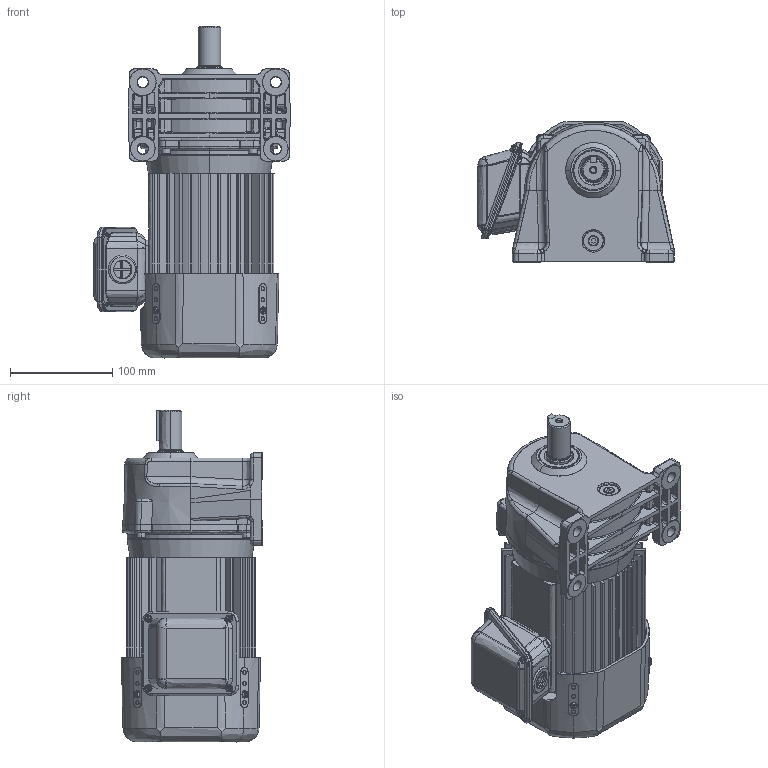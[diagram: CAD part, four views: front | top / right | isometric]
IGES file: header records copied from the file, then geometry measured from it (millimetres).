
Start section: SolidWorks IGES file using analytic representation for surfaces
Global section: file name: \\100.100.100.8\1_共有作業フォルダ\1-5_３Ｄデータ\solidworks\personal-folder\H.Nagayama\SGP1外形\P1(3D)\igs\TML2-04-(5~25).IGS; native system: SolidWorks 2018; preprocessor: SolidWorks 2018; author: sigma-giken; date: 200612.103711; units: millimetre
Bounding box: 192.18 x 138 x 324.5 mm (x, y, z)
Surface area: 426348.3 mm2 (no closed solid volume)
Topology: 0 solids, 0 shells, 1940 faces, 23822 edges, 23786 vertices
Faces by surface type: bspline 1011, revolution 929
